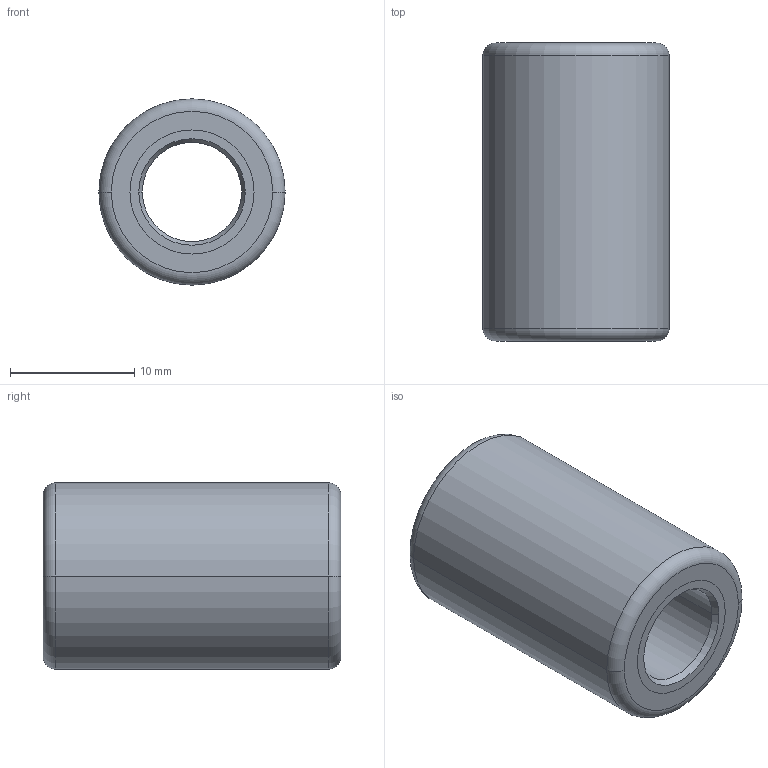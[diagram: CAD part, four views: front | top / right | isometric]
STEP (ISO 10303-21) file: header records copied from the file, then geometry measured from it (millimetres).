
FILE_DESCRIPTION(('STEP AP214'),'1');
FILE_NAME('cctmp_62BE8290-DB37-4093-8D80-53BB07689E31_2023_02_02_13_02_13_0960_91624..stp','2023-02-02T12:02:13',('igus GmbH'),('CADClick - www.CADClick.com'),'Spatial InterOp 3D',' ','unknown authorization');
FILE_SCHEMA(('AUTOMOTIVE_DESIGN'));
Length unit declared in the file: millimetre
Products named in the file (2): 2023_02_02_13_02_13_0913; 2023_02_02_13_02_13_0960
Assembly tree (1 placements, depth 2):
  2023_02_02_13_02_13_0913
    2023_02_02_13_02_13_0960
Bounding box: 15 x 24 x 15 mm (x, y, z)
Volume: 3007.2 mm3; surface area: 2002.4 mm2
Topology: 1 solids, 2 shells, 26 faces, 52 edges, 30 vertices
Faces by surface type: cylinder 10, cone 8, torus 4, plane 4
Entity records: 943 total; most frequent: DIRECTION 142, CARTESIAN_POINT 110, ORIENTED_EDGE 104, AXIS2_PLACEMENT_3D 62, EDGE_CURVE 52, CIRCLE 34, EDGE_LOOP 30, VERTEX_POINT 30
